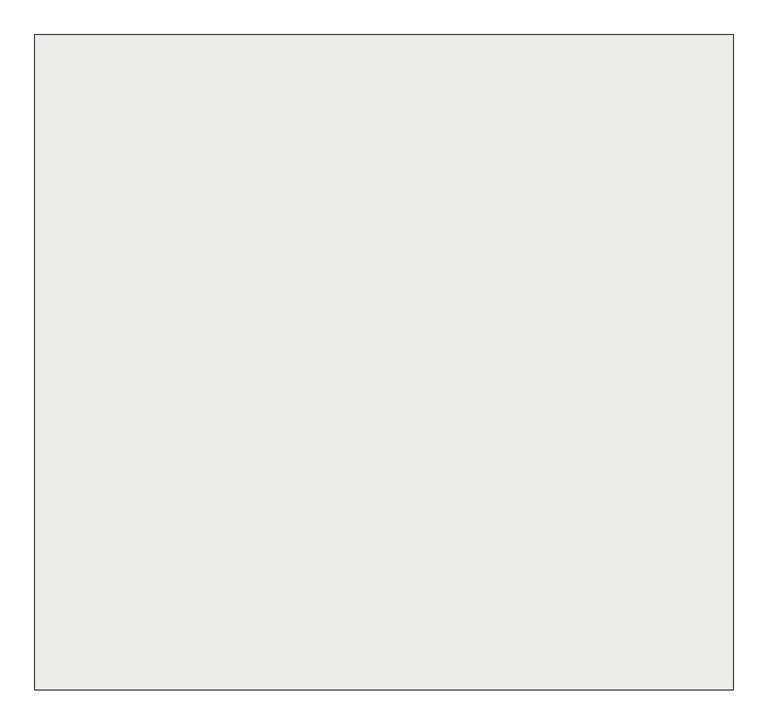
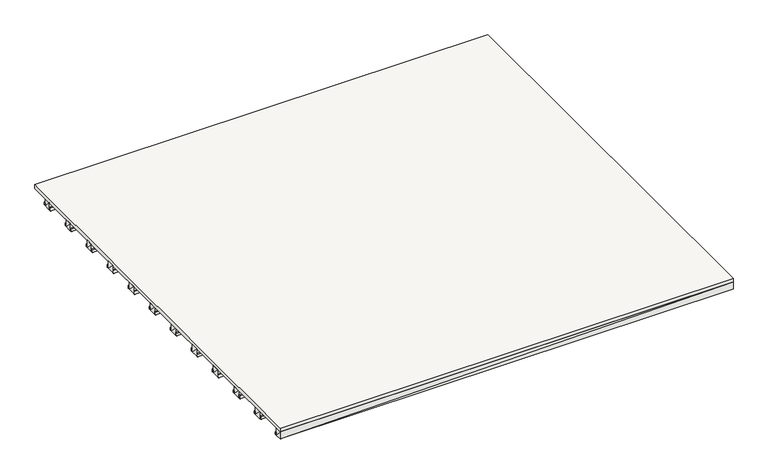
"""IFC4 building model written with IfcOpenShell, lengths in millimetres: slab geometry."""

from ifc_helpers import new_model, si_unit, frame, origin, place, context, project, spatial, polyline, outline, extrude, faceted_brep, source, transform, mapped, element, save


def slab_7e93051f(model_context):
    return source(origin(), model_context, "Body", "SolidModel", [
        faceted_brep([(-2362.845, 1273.705, -120.0), (2362.845, 1273.705, -120.0), (2362.845, 1193.705, -120.0), (-2362.845, 1193.705, -120.0), (-2362.845, 1193.705, -40.0), (2362.845, 1193.705, -40.0), (2362.845, 1273.705, -40.0), (-2362.845, 1273.705, -40.0)], [[[0, 1, 2, 3]], [[4, 5, 6, 7]], [[4, 3, 5]], [[3, 2, 5]], [[5, 2, 6]], [[2, 1, 6]], [[6, 1, 7]], [[1, 0, 7]], [[7, 0, 4]], [[0, 3, 4]]]),
        faceted_brep([(-2362.845, 893.705, -120.0), (2362.845, 893.705, -120.0), (2362.845, 813.705, -120.0), (-2362.845, 813.705, -120.0), (-2362.845, 813.705, -40.0), (2362.845, 813.705, -40.0), (2362.845, 893.705, -40.0), (-2362.845, 893.705, -40.0)], [[[0, 1, 2, 3]], [[4, 5, 6, 7]], [[4, 3, 5]], [[3, 2, 5]], [[5, 2, 6]], [[2, 1, 6]], [[6, 1, 7]], [[1, 0, 7]], [[7, 0, 4]], [[0, 3, 4]]]),
        faceted_brep([(-2362.845, 148.705, -120.0), (2362.845, 148.705, -120.0), (2362.845, 133.705, -120.0), (-2362.845, 133.705, -120.0), (-2362.845, 133.705, -90.0), (2362.845, 133.705, -90.0), (2362.845, 148.705, -90.0), (-2362.845, 148.705, -90.0)], [[[0, 1, 2, 3]], [[4, 5, 6, 7]], [[4, 3, 5]], [[3, 2, 5]], [[5, 2, 6]], [[2, 1, 6]], [[6, 1, 7]], [[1, 0, 7]], [[7, 0, 4]], [[0, 3, 4]]]),
        faceted_brep([(-2362.845, -626.295, -120.0), (2362.845, -626.295, -120.0), (2362.845, -706.295, -120.0), (-2362.845, -706.295, -120.0), (-2362.845, -706.295, -40.0), (2362.845, -706.295, -40.0), (2362.845, -626.295, -40.0), (-2362.845, -626.295, -40.0)], [[[0, 1, 2, 3]], [[4, 5, 6, 7]], [[4, 3, 5]], [[3, 2, 5]], [[5, 2, 6]], [[2, 1, 6]], [[6, 1, 7]], [[1, 0, 7]], [[7, 0, 4]], [[0, 3, 4]]]),
        faceted_brep([(-2362.845, -326.295, -120.0), (2362.845, -326.295, -120.0), (2362.845, -341.295, -120.0), (-2362.845, -341.295, -120.0), (-2362.845, -341.295, -90.0), (2362.845, -341.295, -90.0), (2362.845, -326.295, -90.0), (-2362.845, -326.295, -90.0)], [[[0, 1, 2, 3]], [[4, 5, 6, 7]], [[4, 3, 5]], [[3, 2, 5]], [[5, 2, 6]], [[2, 1, 6]], [[6, 1, 7]], [[1, 0, 7]], [[7, 0, 4]], [[0, 3, 4]]]),
        extrude(outline(polyline([(2362.85, 2216.295), (2362.84, -2216.295), (-2362.84, -2216.295), (-2362.85, 2216.295), (2362.85, 2216.295)])), frame((0.0, 0.0, -40.0), z_axis=(0.0, 0.0, 1.0), x_axis=(1.0, 0.0, 0.0)), (0.0, 0.0, 1.0), 40.0),
        faceted_brep([(-2362.845, 908.705, -120.0), (2362.845, 908.705, -120.0), (2362.845, 893.705, -120.0), (-2362.845, 893.705, -120.0), (-2362.845, 893.705, -90.0), (2362.845, 893.705, -90.0), (2362.845, 908.705, -90.0), (-2362.845, 908.705, -90.0)], [[[0, 1, 2, 3]], [[4, 5, 6, 7]], [[4, 3, 5]], [[3, 2, 5]], [[5, 2, 6]], [[2, 1, 6]], [[6, 1, 7]], [[1, 0, 7]], [[7, 0, 4]], [[0, 3, 4]]]),
        faceted_brep([(-2362.845, 1953.705, -120.0), (2362.845, 1953.705, -120.0), (2362.845, 1938.705, -120.0), (-2362.845, 1938.705, -120.0), (-2362.845, 1938.705, -90.0), (2362.845, 1938.705, -90.0), (2362.845, 1953.705, -90.0), (-2362.845, 1953.705, -90.0)], [[[0, 1, 2, 3]], [[4, 5, 6, 7]], [[4, 3, 5]], [[3, 2, 5]], [[5, 2, 6]], [[2, 1, 6]], [[6, 1, 7]], [[1, 0, 7]], [[7, 0, 4]], [[0, 3, 4]]]),
        faceted_brep([(-2362.845, 513.705, -120.0), (2362.845, 513.705, -120.0), (2362.845, 433.705, -120.0), (-2362.845, 433.705, -120.0), (-2362.845, 433.705, -40.0), (2362.845, 433.705, -40.0), (2362.845, 513.705, -40.0), (-2362.845, 513.705, -40.0)], [[[0, 1, 2, 3]], [[4, 5, 6, 7]], [[4, 3, 5]], [[3, 2, 5]], [[5, 2, 6]], [[2, 1, 6]], [[6, 1, 7]], [[1, 0, 7]], [[7, 0, 4]], [[0, 3, 4]]]),
        faceted_brep([(-2362.845, 2048.705, -120.0), (2362.845, 2048.705, -120.0), (2362.845, 2033.705, -120.0), (-2362.845, 2033.705, -120.0), (-2362.845, 2033.705, -90.0), (2362.845, 2033.705, -90.0), (2362.845, 2048.705, -90.0), (-2362.845, 2048.705, -90.0)], [[[0, 1, 2, 3]], [[4, 5, 6, 7]], [[4, 3, 5]], [[3, 2, 5]], [[5, 2, 6]], [[2, 1, 6]], [[6, 1, 7]], [[1, 0, 7]], [[7, 0, 4]], [[0, 3, 4]]]),
        faceted_brep([(-2362.845, -1466.295, -120.0), (2362.845, -1466.295, -120.0), (2362.845, -1481.295, -120.0), (-2362.845, -1481.295, -120.0), (-2362.845, -1481.295, -90.0), (2362.845, -1481.295, -90.0), (2362.845, -1466.295, -90.0), (-2362.845, -1466.295, -90.0)], [[[0, 1, 2, 3]], [[4, 5, 6, 7]], [[4, 3, 5]], [[3, 2, 5]], [[5, 2, 6]], [[2, 1, 6]], [[6, 1, 7]], [[1, 0, 7]], [[7, 0, 4]], [[0, 3, 4]]]),
        faceted_brep([(-2362.845, 1573.705, -120.0), (2362.845, 1573.705, -120.0), (2362.845, 1558.705, -120.0), (-2362.845, 1558.705, -120.0), (-2362.845, 1558.705, -90.0), (2362.845, 1558.705, -90.0), (2362.845, 1573.705, -90.0), (-2362.845, 1573.705, -90.0)], [[[0, 1, 2, 3]], [[4, 5, 6, 7]], [[4, 3, 5]], [[3, 2, 5]], [[5, 2, 6]], [[2, 1, 6]], [[6, 1, 7]], [[1, 0, 7]], [[7, 0, 4]], [[0, 3, 4]]]),
        faceted_brep([(-2362.845, -1371.295, -120.0), (2362.845, -1371.295, -120.0), (2362.845, -1386.295, -120.0), (-2362.845, -1386.295, -120.0), (-2362.845, -1386.295, -90.0), (2362.845, -1386.295, -90.0), (2362.845, -1371.295, -90.0), (-2362.845, -1371.295, -90.0)], [[[0, 1, 2, 3]], [[4, 5, 6, 7]], [[4, 3, 5]], [[3, 2, 5]], [[5, 2, 6]], [[2, 1, 6]], [[6, 1, 7]], [[1, 0, 7]], [[7, 0, 4]], [[0, 3, 4]]]),
        faceted_brep([(-2362.845, 1288.705, -120.0), (2362.845, 1288.705, -120.0), (2362.845, 1273.705, -120.0), (-2362.845, 1273.705, -120.0), (-2362.845, 1273.705, -90.0), (2362.845, 1273.705, -90.0), (2362.845, 1288.705, -90.0), (-2362.845, 1288.705, -90.0)], [[[0, 1, 2, 3]], [[4, 5, 6, 7]], [[4, 3, 5]], [[3, 2, 5]], [[5, 2, 6]], [[2, 1, 6]], [[6, 1, 7]], [[1, 0, 7]], [[7, 0, 4]], [[0, 3, 4]]]),
        faceted_brep([(-2362.845, 1653.705, -120.0), (2362.845, 1653.705, -120.0), (2362.845, 1573.705, -120.0), (-2362.845, 1573.705, -120.0), (-2362.845, 1573.705, -40.0), (2362.845, 1573.705, -40.0), (2362.845, 1653.705, -40.0), (-2362.845, 1653.705, -40.0)], [[[0, 1, 2, 3]], [[4, 5, 6, 7]], [[4, 3, 5]], [[3, 2, 5]], [[5, 2, 6]], [[2, 1, 6]], [[6, 1, 7]], [[1, 0, 7]], [[7, 0, 4]], [[0, 3, 4]]]),
        faceted_brep([(-2362.845, 528.705, -120.0), (2362.845, 528.705, -120.0), (2362.845, 513.705, -120.0), (-2362.845, 513.705, -120.0), (-2362.845, 513.705, -90.0), (2362.845, 513.705, -90.0), (2362.845, 528.705, -90.0), (-2362.845, 528.705, -90.0)], [[[0, 1, 2, 3]], [[4, 5, 6, 7]], [[4, 3, 5]], [[3, 2, 5]], [[5, 2, 6]], [[2, 1, 6]], [[6, 1, 7]], [[1, 0, 7]], [[7, 0, 4]], [[0, 3, 4]]]),
        faceted_brep([(-2362.845, 1193.705, -120.0), (2362.845, 1193.705, -120.0), (2362.845, 1178.705, -120.0), (-2362.845, 1178.705, -120.0), (-2362.845, 1178.705, -90.0), (2362.845, 1178.705, -90.0), (2362.845, 1193.705, -90.0), (-2362.845, 1193.705, -90.0)], [[[0, 1, 2, 3]], [[4, 5, 6, 7]], [[4, 3, 5]], [[3, 2, 5]], [[5, 2, 6]], [[2, 1, 6]], [[6, 1, 7]], [[1, 0, 7]], [[7, 0, 4]], [[0, 3, 4]]]),
        faceted_brep([(-2362.845, -706.295, -120.0), (2362.845, -706.295, -120.0), (2362.845, -721.295, -120.0), (-2362.845, -721.295, -120.0), (-2362.845, -721.295, -90.0), (2362.845, -721.295, -90.0), (2362.845, -706.295, -90.0), (-2362.845, -706.295, -90.0)], [[[0, 1, 2, 3]], [[4, 5, 6, 7]], [[4, 3, 5]], [[3, 2, 5]], [[5, 2, 6]], [[2, 1, 6]], [[6, 1, 7]], [[1, 0, 7]], [[7, 0, 4]], [[0, 3, 4]]]),
        faceted_brep([(-2362.845, -1386.295, -120.0), (2362.845, -1386.295, -120.0), (2362.845, -1466.295, -120.0), (-2362.845, -1466.295, -120.0), (-2362.845, -1466.295, -40.0), (2362.845, -1466.295, -40.0), (2362.845, -1386.295, -40.0), (-2362.845, -1386.295, -40.0)], [[[0, 1, 2, 3]], [[4, 5, 6, 7]], [[4, 3, 5]], [[3, 2, 5]], [[5, 2, 6]], [[2, 1, 6]], [[6, 1, 7]], [[1, 0, 7]], [[7, 0, 4]], [[0, 3, 4]]]),
        faceted_brep([(-2362.845, -991.295, -120.0), (2362.845, -991.295, -120.0), (2362.845, -1006.295, -120.0), (-2362.845, -1006.295, -120.0), (-2362.845, -1006.295, -90.0), (2362.845, -1006.295, -90.0), (2362.845, -991.295, -90.0), (-2362.845, -991.295, -90.0)], [[[0, 1, 2, 3]], [[4, 5, 6, 7]], [[4, 3, 5]], [[3, 2, 5]], [[5, 2, 6]], [[2, 1, 6]], [[6, 1, 7]], [[1, 0, 7]], [[7, 0, 4]], [[0, 3, 4]]]),
        faceted_brep([(-2362.845, -2146.295, -120.0), (2362.845, -2146.295, -120.0), (2362.845, -2216.295, -120.0), (-2362.8400677, -2216.295, -120.0), (-2362.8400677, -2216.295, -40.0), (2362.845, -2216.295, -40.0), (2362.845, -2146.295, -40.0), (-2362.845, -2146.295, -40.0)], [[[0, 1, 2, 3]], [[4, 5, 6, 7]], [[4, 3, 5]], [[3, 2, 5]], [[5, 2, 6]], [[2, 1, 6]], [[6, 1, 7]], [[1, 0, 7]], [[7, 0, 4]], [[0, 3, 4]]]),
        faceted_brep([(-2362.845, -246.295, -120.0), (2362.845, -246.295, -120.0), (2362.845, -326.295, -120.0), (-2362.845, -326.295, -120.0), (-2362.845, -326.295, -40.0), (2362.845, -326.295, -40.0), (2362.845, -246.295, -40.0), (-2362.845, -246.295, -40.0)], [[[0, 1, 2, 3]], [[4, 5, 6, 7]], [[4, 3, 5]], [[3, 2, 5]], [[5, 2, 6]], [[2, 1, 6]], [[6, 1, 7]], [[1, 0, 7]], [[7, 0, 4]], [[0, 3, 4]]]),
        faceted_brep([(-2362.845, -231.295, -120.0), (2362.845, -231.295, -120.0), (2362.845, -246.295, -120.0), (-2362.845, -246.295, -120.0), (-2362.845, -246.295, -90.0), (2362.845, -246.295, -90.0), (2362.845, -231.295, -90.0), (-2362.845, -231.295, -90.0)], [[[0, 1, 2, 3]], [[4, 5, 6, 7]], [[4, 3, 5]], [[3, 2, 5]], [[5, 2, 6]], [[2, 1, 6]], [[6, 1, 7]], [[1, 0, 7]], [[7, 0, 4]], [[0, 3, 4]]]),
        faceted_brep([(-2362.845, -2131.295, -120.0), (2362.845, -2131.295, -120.0), (2362.845, -2146.295, -120.0), (-2362.845, -2146.295, -120.0), (-2362.845, -2146.295, -90.0), (2362.845, -2146.295, -90.0), (2362.845, -2131.295, -90.0), (-2362.845, -2131.295, -90.0)], [[[0, 1, 2, 3]], [[4, 5, 6, 7]], [[4, 3, 5]], [[3, 2, 5]], [[5, 2, 6]], [[2, 1, 6]], [[6, 1, 7]], [[1, 0, 7]], [[7, 0, 4]], [[0, 3, 4]]]),
        faceted_brep([(-2362.845, 53.705, -120.0), (2362.845, 53.705, -120.0), (2362.845, 38.705, -120.0), (-2362.845, 38.705, -120.0), (-2362.845, 38.705, -90.0), (2362.845, 38.705, -90.0), (2362.845, 53.705, -90.0), (-2362.845, 53.705, -90.0)], [[[0, 1, 2, 3]], [[4, 5, 6, 7]], [[4, 3, 5]], [[3, 2, 5]], [[5, 2, 6]], [[2, 1, 6]], [[6, 1, 7]], [[1, 0, 7]], [[7, 0, 4]], [[0, 3, 4]]]),
        faceted_brep([(-2362.845, 433.705, -120.0), (2362.845, 433.705, -120.0), (2362.845, 418.705, -120.0), (-2362.845, 418.705, -120.0), (-2362.845, 418.705, -90.0), (2362.845, 418.705, -90.0), (2362.845, 433.705, -90.0), (-2362.845, 433.705, -90.0)], [[[0, 1, 2, 3]], [[4, 5, 6, 7]], [[4, 3, 5]], [[3, 2, 5]], [[5, 2, 6]], [[2, 1, 6]], [[6, 1, 7]], [[1, 0, 7]], [[7, 0, 4]], [[0, 3, 4]]]),
        faceted_brep([(-2362.845, -1751.295, -120.0), (2362.845, -1751.295, -120.0), (2362.845, -1766.295, -120.0), (-2362.845, -1766.295, -120.0), (-2362.845, -1766.295, -90.0), (2362.845, -1766.295, -90.0), (2362.845, -1751.295, -90.0), (-2362.845, -1751.295, -90.0)], [[[0, 1, 2, 3]], [[4, 5, 6, 7]], [[4, 3, 5]], [[3, 2, 5]], [[5, 2, 6]], [[2, 1, 6]], [[6, 1, 7]], [[1, 0, 7]], [[7, 0, 4]], [[0, 3, 4]]]),
        faceted_brep([(-2362.845, 813.705, -120.0), (2362.845, 813.705, -120.0), (2362.845, 798.705, -120.0), (-2362.845, 798.705, -120.0), (-2362.845, 798.705, -90.0), (2362.845, 798.705, -90.0), (2362.845, 813.705, -90.0), (-2362.845, 813.705, -90.0)], [[[0, 1, 2, 3]], [[4, 5, 6, 7]], [[4, 3, 5]], [[3, 2, 5]], [[5, 2, 6]], [[2, 1, 6]], [[6, 1, 7]], [[1, 0, 7]], [[7, 0, 4]], [[0, 3, 4]]]),
        faceted_brep([(-2362.845, -611.295, -120.0), (2362.845, -611.295, -120.0), (2362.845, -626.295, -120.0), (-2362.845, -626.295, -120.0), (-2362.845, -626.295, -90.0), (2362.845, -626.295, -90.0), (2362.845, -611.295, -90.0), (-2362.845, -611.295, -90.0)], [[[0, 1, 2, 3]], [[4, 5, 6, 7]], [[4, 3, 5]], [[3, 2, 5]], [[5, 2, 6]], [[2, 1, 6]], [[6, 1, 7]], [[1, 0, 7]], [[7, 0, 4]], [[0, 3, 4]]]),
        faceted_brep([(-2362.845, -1006.295, -120.0), (2362.845, -1006.295, -120.0), (2362.845, -1086.295, -120.0), (-2362.845, -1086.295, -120.0), (-2362.845, -1086.295, -40.0), (2362.845, -1086.295, -40.0), (2362.845, -1006.295, -40.0), (-2362.845, -1006.295, -40.0)], [[[0, 1, 2, 3]], [[4, 5, 6, 7]], [[4, 3, 5]], [[3, 2, 5]], [[5, 2, 6]], [[2, 1, 6]], [[6, 1, 7]], [[1, 0, 7]], [[7, 0, 4]], [[0, 3, 4]]]),
        faceted_brep([(-2362.845, 2033.705, -120.0), (2362.845, 2033.705, -120.0), (2362.845, 1953.705, -120.0), (-2362.845, 1953.705, -120.0), (-2362.845, 1953.705, -40.0), (2362.845, 1953.705, -40.0), (2362.845, 2033.705, -40.0), (-2362.845, 2033.705, -40.0)], [[[0, 1, 2, 3]], [[4, 5, 6, 7]], [[4, 3, 5]], [[3, 2, 5]], [[5, 2, 6]], [[2, 1, 6]], [[6, 1, 7]], [[1, 0, 7]], [[7, 0, 4]], [[0, 3, 4]]]),
        faceted_brep([(-2362.845, -1766.295, -120.0), (2362.845, -1766.295, -120.0), (2362.845, -1846.295, -120.0), (-2362.845, -1846.295, -120.0), (-2362.845, -1846.295, -40.0), (2362.845, -1846.295, -40.0), (2362.845, -1766.295, -40.0), (-2362.845, -1766.295, -40.0)], [[[0, 1, 2, 3]], [[4, 5, 6, 7]], [[4, 3, 5]], [[3, 2, 5]], [[5, 2, 6]], [[2, 1, 6]], [[6, 1, 7]], [[1, 0, 7]], [[7, 0, 4]], [[0, 3, 4]]]),
        faceted_brep([(-2362.845, -1086.295, -120.0), (2362.845, -1086.295, -120.0), (2362.845, -1101.295, -120.0), (-2362.845, -1101.295, -120.0), (-2362.845, -1101.295, -90.0), (2362.845, -1101.295, -90.0), (2362.845, -1086.295, -90.0), (-2362.845, -1086.295, -90.0)], [[[0, 1, 2, 3]], [[4, 5, 6, 7]], [[4, 3, 5]], [[3, 2, 5]], [[5, 2, 6]], [[2, 1, 6]], [[6, 1, 7]], [[1, 0, 7]], [[7, 0, 4]], [[0, 3, 4]]]),
        faceted_brep([(-2362.845, 133.705, -120.0), (2362.845, 133.705, -120.0), (2362.845, 53.705, -120.0), (-2362.845, 53.705, -120.0), (-2362.845, 53.705, -40.0), (2362.845, 53.705, -40.0), (2362.845, 133.705, -40.0), (-2362.845, 133.705, -40.0)], [[[0, 1, 2, 3]], [[4, 5, 6, 7]], [[4, 3, 5]], [[3, 2, 5]], [[5, 2, 6]], [[2, 1, 6]], [[6, 1, 7]], [[1, 0, 7]], [[7, 0, 4]], [[0, 3, 4]]]),
        faceted_brep([(-2362.845, 1668.705, -120.0), (2362.845, 1668.705, -120.0), (2362.845, 1653.705, -120.0), (-2362.845, 1653.705, -120.0), (-2362.845, 1653.705, -90.0), (2362.845, 1653.705, -90.0), (2362.845, 1668.705, -90.0), (-2362.845, 1668.705, -90.0)], [[[0, 1, 2, 3]], [[4, 5, 6, 7]], [[4, 3, 5]], [[3, 2, 5]], [[5, 2, 6]], [[2, 1, 6]], [[6, 1, 7]], [[1, 0, 7]], [[7, 0, 4]], [[0, 3, 4]]]),
        faceted_brep([(-2362.845, -1846.295, -120.0), (2362.845, -1846.295, -120.0), (2362.845, -1861.295, -120.0), (-2362.845, -1861.295, -120.0), (-2362.845, -1861.295, -90.0), (2362.845, -1861.295, -90.0), (2362.845, -1846.295, -90.0), (-2362.845, -1846.295, -90.0)], [[[0, 1, 2, 3]], [[4, 5, 6, 7]], [[4, 3, 5]], [[3, 2, 5]], [[5, 2, 6]], [[2, 1, 6]], [[6, 1, 7]], [[1, 0, 7]], [[7, 0, 4]], [[0, 3, 4]]]),
    ])


if __name__ == "__main__":
    model = new_model("IFC4")
    model_context = context("Model", 3, world=origin())
    ifc_project = project(units=[si_unit("LENGTHUNIT", "METRE", prefix="MILLI")], contexts=[model_context])
    site = spatial("IfcSite", under=ifc_project)
    building = spatial("IfcBuilding", under=site)
    placement = place(None, origin())
    slab_shape = slab_7e93051f(model_context)
    element("IfcSlab", 1, at=placement, inside=building, context=model_context, shape_type="MappedRepresentation", body=[
        mapped(slab_shape, transform((0.0, 0.0, 0.0), x_axis=(1.0, 0.0, 0.0), y_axis=(0.0, 1.0, 0.0), z_axis=(0.0, 0.0, 1.0))),
    ])
    save(model, "model.ifc")
